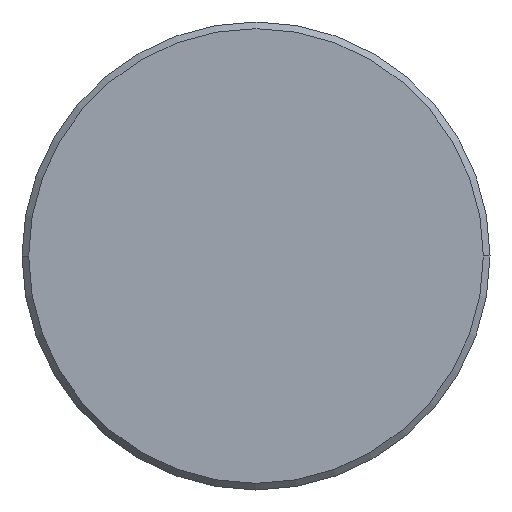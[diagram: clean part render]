
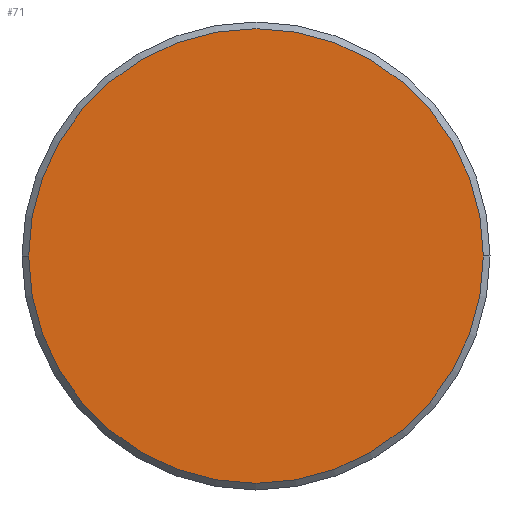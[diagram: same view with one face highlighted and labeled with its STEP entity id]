
A CAD part, left-side view. The second image highlights one B-rep face of the part: STEP entity #71.
In plain terms, the highlighted planar face has unit normal (-1, 0, 0).
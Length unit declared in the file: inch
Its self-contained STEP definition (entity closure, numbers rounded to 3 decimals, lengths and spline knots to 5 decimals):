
#9 = ORIENTED_EDGE ( 'NONE', *, *, #77, .T. ) ;
#13 = ORIENTED_EDGE ( 'NONE', *, *, #15, .T. ) ;
#15 = EDGE_CURVE ( 'NONE', #131, #70, #126, .T. ) ;
#21 = CARTESIAN_POINT ( 'NONE',  ( 0., 0., 0. ) ) ;
#27 = CARTESIAN_POINT ( 'NONE',  ( 0., 0., 0. ) ) ;
#35 = CIRCLE ( 'NONE', #178, 0.13662 ) ;
#70 = VERTEX_POINT ( 'NONE', #199 ) ;
#71 = ADVANCED_FACE ( 'NONE', ( #334 ), #164, .T. ) ;
#77 = EDGE_CURVE ( 'NONE', #70, #131, #35, .T. ) ;
#90 = AXIS2_PLACEMENT_3D ( 'NONE', #27, #108, #259 ) ;
#100 = EDGE_LOOP ( 'NONE', ( #13, #9 ) ) ;
#108 = DIRECTION ( 'NONE',  ( -1., 0., 0. ) ) ;
#118 = DIRECTION ( 'NONE',  ( 0., -1., 0. ) ) ;
#126 = CIRCLE ( 'NONE', #367, 0.13662 ) ;
#131 = VERTEX_POINT ( 'NONE', #356 ) ;
#133 = DIRECTION ( 'NONE',  ( 0., -1., 0. ) ) ;
#164 = PLANE ( 'NONE',  #90 ) ;
#178 = AXIS2_PLACEMENT_3D ( 'NONE', #241, #295, #118 ) ;
#199 = CARTESIAN_POINT ( 'NONE',  ( 0., -0.13662, 0. ) ) ;
#241 = CARTESIAN_POINT ( 'NONE',  ( 0., 0., 0. ) ) ;
#259 = DIRECTION ( 'NONE',  ( 0., -1., 0. ) ) ;
#295 = DIRECTION ( 'NONE',  ( -1., 0., 0. ) ) ;
#321 = DIRECTION ( 'NONE',  ( -1., 0., 0. ) ) ;
#334 = FACE_OUTER_BOUND ( 'NONE', #100, .T. ) ;
#356 = CARTESIAN_POINT ( 'NONE',  ( 0., 0.13662, 0. ) ) ;
#367 = AXIS2_PLACEMENT_3D ( 'NONE', #21, #321, #133 ) ;
